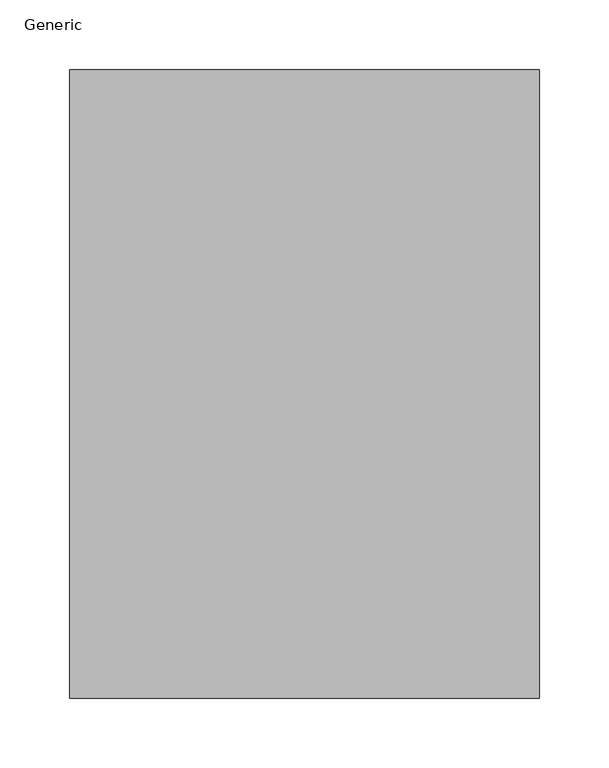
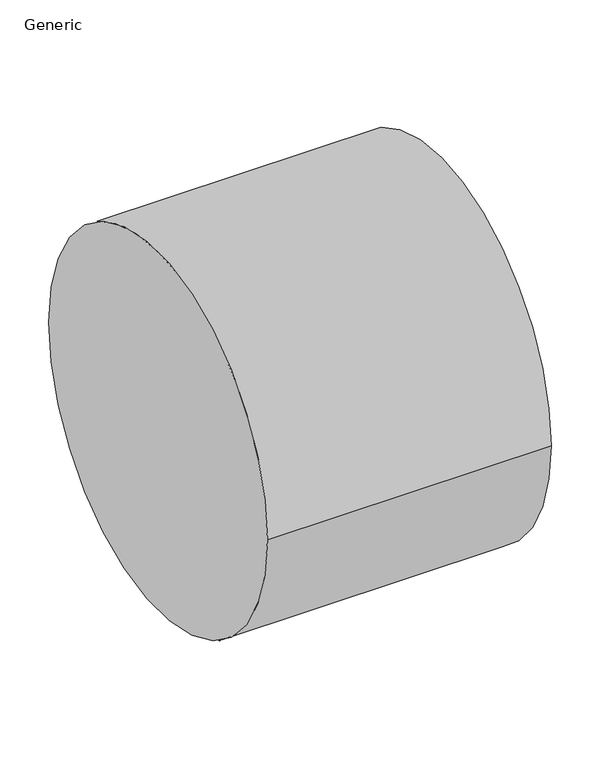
"""IFC4 building model written with IfcOpenShell, lengths in millimetres: proxy geometry, GM_Conduct : Generic."""

from ifc_helpers import new_model, si_unit, point, frame, frame_2d, origin, place, context, project, spatial, circle_curve, trimmed, segment, composite_curve, outline, extrude, source, transform, mapped, element, save


def generic_0c9c9dc3(model_context):
    return source(origin(), model_context, "Body", "SweptSolid", [
        extrude(outline(composite_curve([segment(trimmed(circle_curve(frame_2d((0.0, 144.5)), 225.0), [point((-225.0, 144.5))], [point((225.0, 144.5))], False, "CARTESIAN"), True, "CONTINUOUS"), segment(trimmed(circle_curve(frame_2d((0.0, 144.5)), 225.0), [point((225.0, 144.5))], [point((-225.0, 144.5))], False, "CARTESIAN"), True, "CONTINUOUS")], self_intersect=False)), frame((0.0, 0.0, 0.0), z_axis=(1.0, 0.0, 0.0), x_axis=(0.0, 1.0, 0.0)), (0.0, 0.0, 1.0), 336.5),
    ])


if __name__ == "__main__":
    model = new_model("IFC4")
    model_context = context("Model", 3, world=origin())
    ifc_project = project(units=[si_unit("LENGTHUNIT", "METRE", prefix="MILLI")], contexts=[model_context])
    site = spatial("IfcSite", under=ifc_project)
    building = spatial("IfcBuilding", under=site)
    placement = place(None, origin())
    generic_shape = generic_0c9c9dc3(model_context)
    element("IfcBuildingElementProxy", 1, Name="GM_Conduct : Generic", ObjectType="GM_Conduct : Generic", at=placement, inside=building, context=model_context, shape_type="MappedRepresentation", body=[
        mapped(generic_shape, transform((0.0, 0.0, 0.0), x_axis=(1.0, 0.0, 0.0), y_axis=(0.0, 1.0, 0.0), z_axis=(0.0, 0.0, 1.0))),
    ])
    save(model, "model.ifc")
